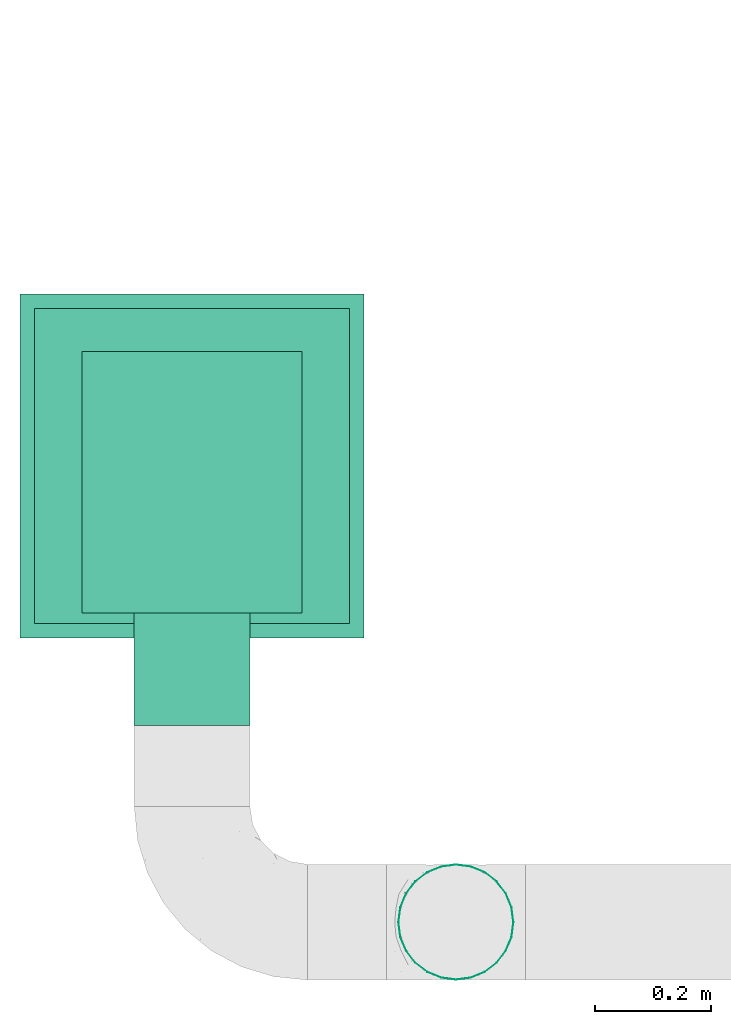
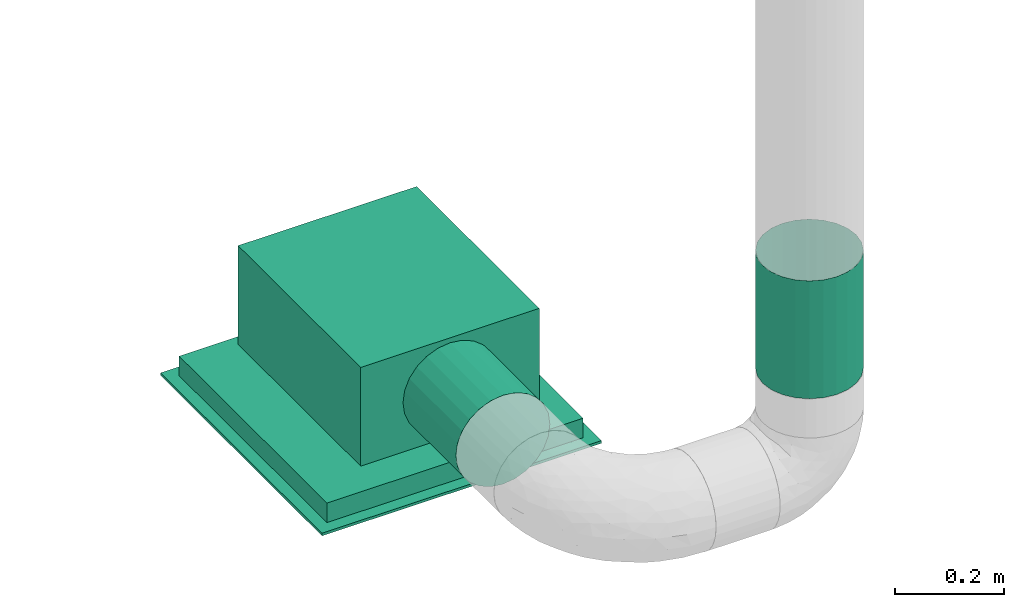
# One storey, part 6 of 9: 1 flow controller, 1 flow terminal.
"""IFC2X3 building model written with IfcOpenShell, lengths in millimetres."""

from ifc_helpers import new_model, entity, si_unit, converted_unit, derived_unit, direction, frame, origin_with_axes, place, context, subcontext, project, spatial, open_shell, surface_model, source, transform, mapped, type_object, element, save


model = new_model("IFC2X3")

# Units and contexts
model_context = context("Model", 3, precision=0.01, world=frame((0.0, 4.29681676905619e-09, 0.0)), true_north=direction((4.01073788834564e-13, 1.0)))
plan_context = context("Plan", 3, precision=0.01, world=frame((0.0, 4.29681676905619e-09, 0.0)), true_north=direction((4.01073788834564e-13, 1.0)))
body_context = subcontext(model_context, "Body", "Model", "MODEL_VIEW")
ifc_project = project(units=[converted_unit("PLANEANGLEUNIT", "DEGREE", entity("IfcPositiveLengthMeasure", 0.0174532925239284), si_unit("PLANEANGLEUNIT", "RADIAN"), dimensions=[0, 0, 0, 0, 0, 0, 0]), si_unit("AREAUNIT", "SQUARE_METRE"), si_unit("LENGTHUNIT", "METRE", prefix="MILLI"), si_unit("MASSUNIT", "GRAM", prefix="KILO"), si_unit("POWERUNIT", "WATT"), si_unit("PRESSUREUNIT", "PASCAL"), si_unit("FORCEUNIT", "NEWTON", prefix="KILO"), si_unit("ELECTRICVOLTAGEUNIT", "VOLT"), si_unit("ELECTRICCURRENTUNIT", "AMPERE"), si_unit("THERMODYNAMICTEMPERATUREUNIT", "DEGREE_CELSIUS"), si_unit("TIMEUNIT", "SECOND"), si_unit("VOLUMEUNIT", "CUBIC_METRE"), derived_unit("LINEARVELOCITYUNIT", [(si_unit("LENGTHUNIT", "METRE"), 1), (si_unit("TIMEUNIT", "SECOND"), -1)]), derived_unit("VOLUMETRICFLOWRATEUNIT", [(si_unit("VOLUMEUNIT", "CUBIC_METRE"), 1), (si_unit("TIMEUNIT", "SECOND"), -1)]), derived_unit("THERMALTRANSMITTANCEUNIT", [(si_unit("POWERUNIT", "WATT"), 1), (si_unit("THERMODYNAMICTEMPERATUREUNIT", "KELVIN"), -1), (si_unit("AREAUNIT", "SQUARE_METRE"), -1)]), derived_unit("SOUNDPRESSUREUNIT", [(si_unit("PRESSUREUNIT", "PASCAL"), 1)])], contexts=[model_context, plan_context])

# Site, building, storey
site_placement = place(None, frame((0.0, -4.29681676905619e-09, 0.0), z_axis=(0.0, 0.0, 1.0), x_axis=(1.0, 0.0, 0.0)))
site = spatial("IfcSite", under=ifc_project, at=site_placement, CompositionType="ELEMENT")
building_placement = place(site_placement, frame((0.0, 4.29681676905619e-09, 0.0), z_axis=(0.0, 0.0, 1.0), x_axis=(1.0, 0.0, 0.0)))
building = spatial("IfcBuilding", under=site, at=building_placement, Name="mc-building", CompositionType="ELEMENT")
storey_placement = place(building_placement, frame((0.0, 0.0, 210200.0), z_axis=(0.0, 0.0, 1.0), x_axis=(1.0, 0.0, 0.0)))
storey = spatial("IfcBuildingStorey", under=building, at=storey_placement, Name="Nivå F -0,7m", CompositionType="ELEMENT", Elevation=210200.0)

# Flow controller
damper_type = type_object("IfcDamperType", Name="IGNIS-C-EI60-200", PredefinedType="FIREDAMPER")
shared_shape_1 = source(origin_with_axes(), body_context, "Body", "SurfaceModel", [
    surface_model("IfcShellBasedSurfaceModel", [(132.5, 49.75, -86.16953), (132.5, 70.35712, -70.35712), (132.5, 49.65, -85.99632), (132.5, 25.70073, -95.91644), (132.5, 0.0, -99.3), (132.5, 25.7525, -96.10962), (132.5, 0.0, -99.5), (132.5, 70.2157, -70.2157), (132.5, 96.10962, -25.7525), (132.5, 99.3, 0.0), (132.5, 95.91644, -25.70073), (132.5, 99.5, 0.0), (132.5, 86.16953, -49.75), (132.5, 85.99632, -49.65), (132.5, -25.70073, -95.91644), (132.5, -25.7525, -96.10962), (132.5, -49.65, -85.99632), (132.5, -70.35712, -70.35712), (132.5, -49.75, -86.16953), (132.5, -70.2157, -70.2157), (132.5, -85.99632, -49.65), (132.5, -86.16953, -49.75), (132.5, -95.91644, -25.70073), (132.5, -96.10962, -25.7525), (132.5, -99.3, 0.0), (132.5, -99.5, 0.0), (132.5, 96.10962, 25.7525), (132.5, 95.91644, 25.70073), (132.5, 85.99632, 49.65), (132.5, 86.16953, 49.75), (132.5, 70.2157, 70.2157), (132.5, 70.35712, 70.35712), (132.5, 49.75, 86.16953), (132.5, 49.65, 85.99632), (132.5, 25.70073, 95.91644), (132.5, 25.7525, 96.10962), (132.5, 0.0, 99.3), (132.5, 0.0, 99.5), (132.5, -86.16953, 49.75), (132.5, -85.99632, 49.65), (132.5, -70.35712, 70.35712), (132.5, -70.2157, 70.2157), (132.5, -96.10962, 25.7525), (132.5, -95.91644, 25.70073), (132.5, -25.70073, 95.91644), (132.5, -25.7525, 96.10962), (132.5, -49.65, 85.99632), (132.5, -49.75, 86.16953), (-132.5, 49.75, 86.16953), (-132.5, 70.35712, 70.35712), (-132.5, 49.65, 85.99632), (-132.5, 25.70073, 95.91644), (-132.5, 0.0, 99.3), (-132.5, 25.7525, 96.10962), (-132.5, 0.0, 99.5), (-132.5, 70.2157, 70.2157), (-132.5, 96.10962, 25.7525), (-132.5, 99.3, 0.0), (-132.5, 95.91644, 25.70073), (-132.5, 99.5, 0.0), (-132.5, 86.16953, 49.75), (-132.5, 85.99632, 49.65), (-132.5, -25.70073, 95.91644), (-132.5, -25.7525, 96.10962), (-132.5, -49.65, 85.99632), (-132.5, -70.35712, 70.35712), (-132.5, -49.75, 86.16953), (-132.5, -70.2157, 70.2157), (-132.5, -85.99632, 49.65), (-132.5, -86.16953, 49.75), (-132.5, -95.91644, 25.70073), (-132.5, -96.10962, 25.7525), (-132.5, -99.3, 0.0), (-132.5, -99.5, 0.0), (-132.5, 96.10962, -25.7525), (-132.5, 95.91644, -25.70073), (-132.5, 85.99632, -49.65), (-132.5, 86.16953, -49.75), (-132.5, 70.2157, -70.2157), (-132.5, 70.35712, -70.35712), (-132.5, 49.75, -86.16953), (-132.5, 49.65, -85.99632), (-132.5, 25.70073, -95.91644), (-132.5, 25.7525, -96.10962), (-132.5, 0.0, -99.3), (-132.5, 0.0, -99.5), (-132.5, -86.16953, -49.75), (-132.5, -85.99632, -49.65), (-132.5, -70.35712, -70.35712), (-132.5, -70.2157, -70.2157), (-132.5, -96.10962, -25.7525), (-132.5, -95.91644, -25.70073), (-132.5, -25.70073, -95.91644), (-132.5, -25.7525, -96.10962), (-132.5, -49.65, -85.99632), (-132.5, -49.75, -86.16953)], [open_shell([[[0, 1, 2]], [[0, 2, 3]], [[4, 5, 3]], [[5, 4, 6]], [[3, 5, 0]], [[2, 1, 7]], [[8, 9, 10]], [[9, 8, 11]], [[8, 10, 12]], [[7, 12, 13]], [[12, 7, 1]], [[13, 12, 10]], [[6, 14, 15]], [[15, 14, 16]], [[17, 18, 19]], [[16, 18, 15]], [[16, 19, 18]], [[6, 4, 14]], [[20, 21, 17]], [[21, 20, 22]], [[20, 17, 19]], [[23, 22, 24]], [[22, 23, 21]], [[23, 24, 25]], [[11, 26, 27]], [[27, 26, 28]], [[28, 29, 30]], [[29, 28, 26]], [[30, 29, 31]], [[31, 32, 33]], [[33, 32, 34]], [[34, 35, 36]], [[35, 34, 32]], [[36, 35, 37]], [[33, 30, 31]], [[38, 39, 40]], [[40, 39, 41]], [[39, 38, 42]], [[25, 43, 42]], [[42, 43, 39]], [[25, 24, 43]], [[44, 37, 45]], [[44, 45, 46]], [[41, 47, 40]], [[41, 46, 47]], [[47, 46, 45]], [[36, 37, 44]], [[27, 9, 11]], [[48, 49, 50]], [[48, 50, 51]], [[52, 53, 51]], [[53, 52, 54]], [[51, 53, 48]], [[50, 49, 55]], [[56, 57, 58]], [[57, 56, 59]], [[56, 58, 60]], [[55, 60, 61]], [[60, 55, 49]], [[61, 60, 58]], [[54, 62, 63]], [[63, 62, 64]], [[65, 66, 67]], [[64, 66, 63]], [[64, 67, 66]], [[54, 52, 62]], [[68, 69, 65]], [[69, 68, 70]], [[68, 65, 67]], [[71, 70, 72]], [[70, 71, 69]], [[71, 72, 73]], [[59, 74, 75]], [[75, 74, 76]], [[76, 77, 78]], [[77, 76, 74]], [[78, 77, 79]], [[79, 80, 81]], [[81, 80, 82]], [[82, 83, 84]], [[83, 82, 80]], [[84, 83, 85]], [[81, 78, 79]], [[86, 87, 88]], [[88, 87, 89]], [[87, 86, 90]], [[73, 91, 90]], [[90, 91, 87]], [[73, 72, 91]], [[92, 85, 93]], [[92, 93, 94]], [[89, 95, 88]], [[89, 94, 95]], [[95, 94, 93]], [[84, 85, 92]], [[75, 57, 59]], [[23, 90, 86]], [[88, 21, 86]], [[18, 95, 93]], [[88, 95, 17]], [[15, 93, 85]], [[90, 25, 73]], [[90, 23, 25]], [[86, 21, 23]], [[88, 17, 21]], [[18, 17, 95]], [[93, 15, 18]], [[85, 6, 15]], [[5, 83, 80]], [[79, 0, 80]], [[12, 77, 74]], [[79, 77, 1]], [[8, 74, 59]], [[83, 5, 6]], [[80, 0, 5]], [[79, 1, 0]], [[77, 12, 1]], [[8, 12, 74]], [[59, 11, 8]], [[83, 6, 85]], [[29, 60, 49]], [[32, 48, 53]], [[49, 48, 31]], [[35, 53, 54]], [[59, 26, 11]], [[26, 59, 56]], [[26, 56, 29]], [[56, 60, 29]], [[49, 31, 29]], [[32, 31, 48]], [[53, 35, 32]], [[54, 37, 35]], [[45, 63, 66]], [[65, 47, 66]], [[38, 69, 71]], [[65, 69, 40]], [[42, 71, 73]], [[63, 45, 37]], [[66, 47, 45]], [[65, 40, 47]], [[69, 38, 40]], [[42, 38, 71]], [[73, 25, 42]], [[63, 37, 54]], [[87, 91, 22]], [[87, 20, 89]], [[92, 94, 16]], [[19, 94, 89]], [[84, 92, 14]], [[72, 24, 91]], [[24, 22, 91]], [[22, 20, 87]], [[20, 19, 89]], [[94, 19, 16]], [[16, 14, 92]], [[14, 4, 84]], [[81, 82, 3]], [[81, 2, 78]], [[75, 76, 13]], [[7, 76, 78]], [[57, 75, 10]], [[4, 3, 82]], [[3, 2, 81]], [[2, 7, 78]], [[7, 13, 76]], [[75, 13, 10]], [[10, 9, 57]], [[84, 4, 82]], [[55, 61, 28]], [[51, 50, 33]], [[30, 50, 55]], [[52, 51, 34]], [[9, 27, 57]], [[58, 57, 27]], [[28, 58, 27]], [[28, 61, 58]], [[28, 30, 55]], [[50, 30, 33]], [[33, 34, 51]], [[34, 36, 52]], [[64, 62, 44]], [[64, 46, 67]], [[70, 68, 39]], [[41, 68, 67]], [[72, 70, 43]], [[36, 44, 62]], [[44, 46, 64]], [[46, 41, 67]], [[41, 39, 68]], [[70, 39, 43]], [[43, 24, 72]], [[52, 36, 62]]])]),
])
flow_controller_placement = place(storey_placement, frame((522641.60696, 451822.14993, 3638.53314000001), z_axis=(1.0, 0.0, 0.0), x_axis=(0.0, 0.0, -1.0)))
element("IfcFlowController", 1, at=flow_controller_placement, inside=storey, type_object=damper_type, Name="IGNIS-C-EI60-200", context=body_context, shape_type="MappedRepresentation", body=[
    mapped(shared_shape_1, transform((0.0, 0.0, 0.0), scale=1.0)),
])

# Flow terminal
air_terminal_type = type_object("IfcAirTerminalType", Name="Orion-LOV-TA-250+Luna-200-250", PredefinedType="NOTDEFINED")
shared_shape_2 = source(origin_with_axes(), body_context, "Body", "SurfaceModel", [
    surface_model("IfcShellBasedSurfaceModel", [(-253.99999, 189.99999, 309.0), (-253.99999, -189.99999, 309.0), (198.0, -189.99999, 309.0), (198.0, 189.99999, 309.0), (198.0, 189.99999, 87.0), (198.0, -189.99999, 87.0), (-253.99999, -189.99999, 87.0), (-253.99999, 189.99999, 87.0), (-272.49999, 272.49999, 44.0), (-272.49999, -272.49999, 44.0), (272.49999, -272.49999, 44.0), (272.49999, 272.49999, 44.0), (272.49999, 272.49999, 0.0), (272.49999, -272.49999, 0.0), (-272.49999, -272.49999, 0.0), (-272.49999, 272.49999, 0.0), (-297.49999, 297.49999, 0.0), (-297.49999, -297.49999, 0.0), (297.49999, -297.49999, 0.0), (297.49999, 297.49999, 0.0), (297.49999, 297.49999, -6.0), (297.49999, -297.49999, -6.0), (-297.49999, -297.49999, -6.0), (-297.49999, 297.49999, -6.0), (-253.99999, -96.59259, 172.11809), (-448.99999, -96.59259, 172.11809), (-448.99999, -86.60254, 148.0), (-448.99999, -70.71068, 127.28932), (-253.99999, -86.60254, 148.0), (-253.99999, -50.0, 111.39746), (-448.99999, -50.0, 111.39746), (-448.99999, -25.8819, 101.40742), (-253.99999, -70.71068, 127.28932), (-253.99999, -25.8819, 101.40742), (-448.99999, 0.0, 98.0), (-253.99999, -100.0, 198.0), (-448.99999, -100.0, 198.0), (-253.99999, 0.0, 98.0), (-253.99999, 25.8819, 101.40742), (-448.99999, 25.8819, 101.40742), (-448.99999, 50.0, 111.39746), (-448.99999, 70.71068, 127.28932), (-253.99999, 50.0, 111.39746), (-253.99999, 86.60254, 148.0), (-448.99999, 86.60254, 148.0), (-448.99999, 96.59259, 172.11809), (-253.99999, 70.71068, 127.28932), (-253.99999, 96.59259, 172.11809), (-448.99999, 100.0, 198.0), (-253.99999, 100.0, 198.0), (-448.99999, 96.59259, 223.8819), (-253.99999, 96.59259, 223.8819), (-253.99999, 50.0, 284.60254), (-448.99999, 50.0, 284.60254), (-448.99999, 25.8819, 294.59257), (-253.99999, 70.71068, 268.71067), (-448.99999, 70.71068, 268.71067), (-253.99999, 25.8819, 294.59257), (-448.99999, 0.0, 298.0), (-448.99999, 86.60254, 248.0), (-253.99999, 86.60254, 248.0), (-253.99999, 0.0, 298.0), (-253.99999, -25.8819, 294.59257), (-448.99999, -25.8819, 294.59257), (-448.99999, -50.0, 284.60254), (-448.99999, -70.71068, 268.71067), (-253.99999, -50.0, 284.60254), (-253.99999, -86.60254, 248.0), (-448.99999, -86.60254, 248.0), (-448.99999, -96.59259, 223.8819), (-253.99999, -70.71068, 268.71067), (-253.99999, -96.59259, 223.8819), (-109.1192, -63.0, 87.0), (-126.0, 0.0, 87.0), (-121.70665, -32.6112, 87.0), (-32.6112, -121.70665, 87.0), (-89.09545, -89.09545, 87.0), (-32.6112, 121.70665, 87.0), (-63.0, -109.1192, 87.0), (0.0, 126.0, 87.0), (-121.70665, 32.6112, 87.0), (-89.09545, 89.09545, 87.0), (-109.1192, 63.0, 87.0), (-63.0, 109.1192, 87.0), (0.0, -126.0, 87.0), (32.6112, -121.70665, 87.0), (63.0, -109.1192, 87.0), (89.09545, -89.09545, 87.0), (109.1192, -63.0, 87.0), (121.70665, -32.6112, 87.0), (126.0, 0.0, 87.0), (32.6112, 121.70665, 87.0), (121.70665, 32.6112, 87.0), (89.09545, 89.09545, 87.0), (63.0, 109.1192, 87.0), (109.1192, 63.0, 87.0), (-121.70665, -32.6112, 44.0), (-126.0, 0.0, 44.0), (-109.1192, -63.0, 44.0), (-89.09545, -89.09545, 44.0), (-63.0, -109.1192, 44.0), (-32.6112, -121.70665, 44.0), (0.0, -126.0, 44.0), (32.6112, -121.70665, 44.0), (63.0, -109.1192, 44.0), (89.09545, -89.09545, 44.0), (109.1192, -63.0, 44.0), (121.70665, -32.6112, 44.0), (126.0, 0.0, 44.0), (121.70665, 32.6112, 44.0), (109.1192, 63.0, 44.0), (89.09545, 89.09545, 44.0), (63.0, 109.1192, 44.0), (32.6112, 121.70665, 44.0), (0.0, 126.0, 44.0), (-63.0, 109.1192, 44.0), (-32.6112, 121.70665, 44.0), (-89.09545, 89.09545, 44.0), (-121.70665, 32.6112, 44.0), (-109.1192, 63.0, 44.0)], [open_shell([[[0, 1, 2]], [[2, 3, 0]], [[4, 5, 6]], [[6, 7, 4]], [[3, 2, 4]], [[5, 4, 2]], [[1, 0, 6]], [[7, 6, 0]], [[8, 9, 10]], [[10, 11, 8]], [[12, 13, 14]], [[14, 15, 12]], [[16, 17, 18]], [[18, 19, 16]], [[20, 21, 22]], [[22, 23, 20]], [[24, 25, 26]], [[27, 28, 26]], [[29, 30, 31]], [[27, 30, 32]], [[33, 31, 34]], [[25, 35, 36]], [[25, 24, 35]], [[26, 28, 24]], [[27, 32, 28]], [[29, 32, 30]], [[31, 33, 29]], [[34, 37, 33]], [[38, 39, 40]], [[41, 42, 40]], [[43, 44, 45]], [[41, 44, 46]], [[47, 45, 48]], [[39, 38, 37]], [[40, 42, 38]], [[41, 46, 42]], [[44, 43, 46]], [[47, 43, 45]], [[48, 49, 47]], [[39, 37, 34]], [[48, 50, 51]], [[52, 53, 54]], [[53, 55, 56]], [[57, 54, 58]], [[48, 51, 49]], [[51, 50, 59]], [[51, 59, 60]], [[60, 59, 55]], [[55, 59, 56]], [[55, 53, 52]], [[54, 57, 52]], [[58, 61, 57]], [[62, 63, 64]], [[65, 66, 64]], [[67, 68, 69]], [[65, 68, 70]], [[71, 69, 36]], [[63, 62, 61]], [[64, 66, 62]], [[65, 70, 66]], [[68, 67, 70]], [[71, 67, 69]], [[36, 35, 71]], [[63, 61, 58]], [[72, 73, 74]], [[75, 72, 76]], [[72, 75, 77]], [[75, 76, 78]], [[75, 79, 77]], [[80, 81, 82]], [[77, 80, 73]], [[81, 77, 83]], [[77, 81, 80]], [[73, 72, 77]], [[75, 84, 79]], [[85, 86, 87]], [[79, 85, 87]], [[88, 89, 90]], [[87, 88, 91]], [[90, 92, 88]], [[91, 93, 94]], [[91, 79, 87]], [[93, 92, 95]], [[92, 93, 91]], [[88, 92, 91]], [[85, 79, 84]], [[16, 19, 20]], [[20, 23, 16]], [[17, 16, 23]], [[23, 22, 17]], [[18, 17, 22]], [[22, 21, 18]], [[19, 18, 21]], [[21, 20, 19]], [[8, 11, 12]], [[12, 15, 8]], [[9, 8, 15]], [[15, 14, 9]], [[10, 9, 14]], [[14, 13, 10]], [[11, 10, 13]], [[13, 12, 11]], [[96, 74, 97]], [[98, 72, 96]], [[78, 99, 100]], [[98, 99, 76]], [[75, 100, 101]], [[96, 72, 74]], [[74, 73, 97]], [[75, 78, 100]], [[76, 99, 78]], [[76, 72, 98]], [[84, 75, 101]], [[101, 102, 84]], [[103, 85, 102]], [[104, 86, 103]], [[88, 105, 106]], [[104, 105, 87]], [[89, 106, 107]], [[104, 87, 86]], [[86, 85, 103]], [[90, 89, 107]], [[88, 106, 89]], [[88, 87, 105]], [[108, 90, 107]], [[102, 85, 84]], [[109, 92, 108]], [[110, 95, 109]], [[94, 111, 112]], [[110, 111, 93]], [[91, 112, 113]], [[109, 95, 92]], [[92, 90, 108]], [[91, 94, 112]], [[93, 111, 94]], [[93, 95, 110]], [[79, 91, 113]], [[113, 114, 79]], [[115, 83, 116]], [[115, 81, 83]], [[83, 77, 116]], [[114, 77, 79]], [[54, 63, 58]], [[56, 54, 53]], [[63, 54, 25]], [[56, 25, 54]], [[25, 56, 59]], [[64, 68, 65]], [[68, 64, 63]], [[68, 36, 69]], [[36, 68, 63]], [[36, 63, 25]], [[25, 59, 50]], [[39, 48, 45]], [[41, 45, 44]], [[40, 39, 45]], [[40, 45, 41]], [[48, 39, 34]], [[25, 27, 26]], [[27, 25, 30]], [[30, 34, 31]], [[25, 50, 30]], [[48, 34, 30]], [[30, 50, 48]], [[42, 37, 38]], [[47, 42, 46]], [[29, 42, 35]], [[47, 46, 43]], [[42, 47, 67]], [[37, 29, 33]], [[37, 42, 29]], [[32, 24, 28]], [[24, 32, 29]], [[29, 35, 24]], [[51, 47, 49]], [[47, 60, 55]], [[47, 55, 57]], [[47, 57, 67]], [[57, 55, 52]], [[62, 57, 61]], [[35, 67, 71]], [[42, 67, 35]], [[67, 66, 70]], [[66, 67, 62]], [[57, 62, 67]], [[60, 47, 51]], [[0, 3, 4]], [[4, 7, 0]], [[2, 1, 6]], [[6, 5, 2]], [[108, 107, 106]], [[108, 106, 105]], [[105, 104, 103]], [[108, 105, 109]], [[113, 105, 103]], [[109, 111, 110]], [[111, 109, 113]], [[111, 113, 112]], [[109, 105, 113]], [[103, 114, 113]], [[103, 102, 114]], [[96, 102, 101]], [[96, 101, 100]], [[98, 96, 100]], [[98, 100, 99]], [[102, 96, 97]], [[116, 117, 115]], [[117, 116, 97]], [[117, 118, 119]], [[118, 117, 97]], [[114, 97, 116]], [[97, 114, 102]], [[116, 77, 114]], [[82, 117, 119]], [[115, 117, 81]], [[80, 119, 118]], [[73, 80, 118]], [[82, 119, 80]], [[82, 81, 117]], [[97, 73, 118]]])]),
])
flow_terminal_placement = place(storey_placement, frame((522185.29437, 452610.77275, 3100.0), z_axis=(0.0, 0.0, 1.0), x_axis=(0.0, 1.0, 0.0)))
element("IfcFlowTerminal", 2, at=flow_terminal_placement, inside=storey, type_object=air_terminal_type, Name="Orion-LOV-TA-250+Luna-200-250", context=body_context, shape_type="MappedRepresentation", body=[
    mapped(shared_shape_2, transform((0.0, 0.0, 0.0), scale=1.0)),
])

save(model, "model.ifc")
